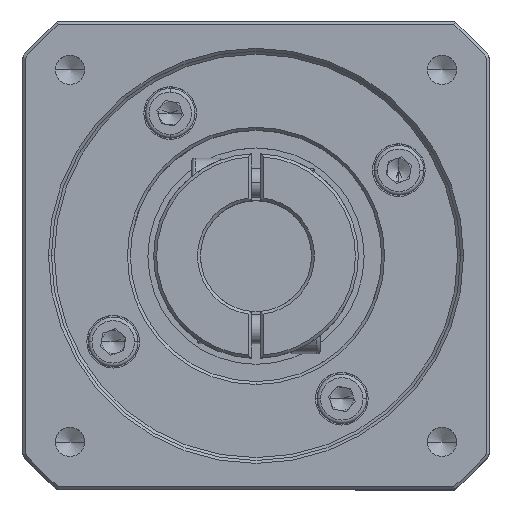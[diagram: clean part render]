
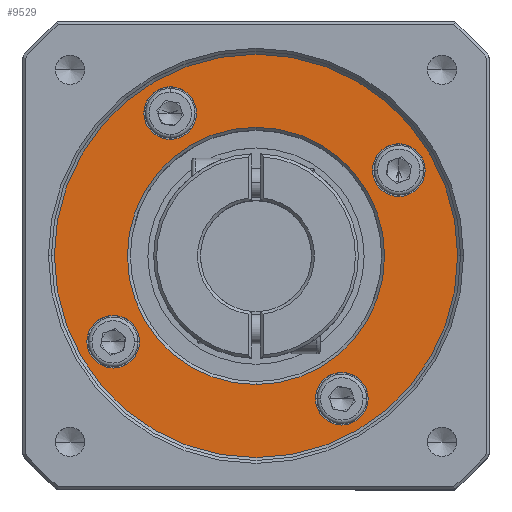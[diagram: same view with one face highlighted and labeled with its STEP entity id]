
A CAD part, top view. The second image highlights one B-rep face of the part: STEP entity #9529.
In plain terms, the highlighted planar face has unit normal (0, 0, 1).
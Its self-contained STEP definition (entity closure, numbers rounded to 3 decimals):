
#1515 = ORIENTED_EDGE ( 'NONE', *, *, #38406, .T. ) ;
#1862 = AXIS2_PLACEMENT_3D ( 'NONE', #30465, #42944, #5624 ) ;
#2057 = DIRECTION ( 'NONE',  ( 1., 0., 0. ) ) ;
#2311 = CARTESIAN_POINT ( 'NONE',  ( -25.851, -3.834, 25.374 ) ) ;
#3142 = AXIS2_PLACEMENT_3D ( 'NONE', #71570, #34309, #22309 ) ;
#3441 = ORIENTED_EDGE ( 'NONE', *, *, #7386, .T. ) ;
#3906 = CARTESIAN_POINT ( 'NONE',  ( -60.459, 5.917, 25.374 ) ) ;
#4076 = CIRCLE ( 'NONE', #16297, 4.5 ) ;
#5624 = DIRECTION ( 'NONE',  ( 1., 0., 0. ) ) ;
#6650 = AXIS2_PLACEMENT_3D ( 'NONE', #71312, #27535, #8453 ) ;
#6820 = FACE_BOUND ( 'NONE', #76155, .T. ) ;
#7386 = EDGE_CURVE ( 'NONE', #61608, #59304, #44822, .T. ) ;
#7796 = CARTESIAN_POINT ( 'NONE',  ( -16.101, 35.274, 25.374 ) ) ;
#8219 = CARTESIAN_POINT ( 'NONE',  ( -40.53, 20.596, 25.374 ) ) ;
#8453 = DIRECTION ( 'NONE',  ( 0., -1., 0. ) ) ;
#9355 = DIRECTION ( 'NONE',  ( 1., 0., 0. ) ) ;
#9529 = ADVANCED_FACE ( 'NONE', ( #6820, #12809, #77118, #60504, #30198, #58570 ), #56396, .T. ) ;
#9584 = DIRECTION ( 'NONE',  ( 0., -1., 0. ) ) ;
#10305 = DIRECTION ( 'NONE',  ( 1., 0., 0. ) ) ;
#10790 = ORIENTED_EDGE ( 'NONE', *, *, #39385, .T. ) ;
#12809 = FACE_OUTER_BOUND ( 'NONE', #61949, .T. ) ;
#13758 = AXIS2_PLACEMENT_3D ( 'NONE', #2311, #76988, #2057 ) ;
#14155 = VERTEX_POINT ( 'NONE', #69733 ) ;
#14992 = ORIENTED_EDGE ( 'NONE', *, *, #26671, .T. ) ;
#15199 = ORIENTED_EDGE ( 'NONE', *, *, #37053, .T. ) ;
#16297 = AXIS2_PLACEMENT_3D ( 'NONE', #46640, #40377, #9355 ) ;
#16334 = CIRCLE ( 'NONE', #6650, 22. ) ;
#17208 = DIRECTION ( 'NONE',  ( 1., 0., 0. ) ) ;
#18757 = EDGE_CURVE ( 'NONE', #47877, #37602, #51228, .T. ) ;
#18996 = AXIS2_PLACEMENT_3D ( 'NONE', #25112, #32700, #51740 ) ;
#19689 = VERTEX_POINT ( 'NONE', #21382 ) ;
#21382 = CARTESIAN_POINT ( 'NONE',  ( -11.601, 35.274, 25.374 ) ) ;
#22309 = DIRECTION ( 'NONE',  ( 1., 0., 0. ) ) ;
#22362 = DIRECTION ( 'NONE',  ( 0., 0., -1. ) ) ;
#23165 = DIRECTION ( 'NONE',  ( 0., 0., -1. ) ) ;
#23318 = VERTEX_POINT ( 'NONE', #65593 ) ;
#23698 = DIRECTION ( 'NONE',  ( 1., 0., 0. ) ) ;
#25112 = CARTESIAN_POINT ( 'NONE',  ( -40.53, 20.596, 25.374 ) ) ;
#26625 = DIRECTION ( 'NONE',  ( 0., 0., -1. ) ) ;
#26629 = CIRCLE ( 'NONE', #54617, 22. ) ;
#26671 = EDGE_CURVE ( 'NONE', #26674, #14155, #41826, .T. ) ;
#26674 = VERTEX_POINT ( 'NONE', #62018 ) ;
#27535 = DIRECTION ( 'NONE',  ( 0., 0., -1. ) ) ;
#27767 = EDGE_CURVE ( 'NONE', #14155, #26674, #41442, .T. ) ;
#28128 = EDGE_CURVE ( 'NONE', #59304, #61608, #39448, .T. ) ;
#29110 = EDGE_CURVE ( 'NONE', #58902, #78585, #63099, .T. ) ;
#30198 = FACE_BOUND ( 'NONE', #30478, .T. ) ;
#30465 = CARTESIAN_POINT ( 'NONE',  ( -64.959, 5.917, 25.374 ) ) ;
#30478 = EDGE_LOOP ( 'NONE', ( #78180, #54150 ) ) ;
#30770 = AXIS2_PLACEMENT_3D ( 'NONE', #36503, #23165, #17208 ) ;
#31970 = EDGE_LOOP ( 'NONE', ( #3441, #69652 ) ) ;
#32700 = DIRECTION ( 'NONE',  ( 0., 0., 1. ) ) ;
#32773 = DIRECTION ( 'NONE',  ( 1., 0., 0. ) ) ;
#33590 = CIRCLE ( 'NONE', #34998, 4.5 ) ;
#34309 = DIRECTION ( 'NONE',  ( 0., 0., -1. ) ) ;
#34998 = AXIS2_PLACEMENT_3D ( 'NONE', #7796, #70162, #47236 ) ;
#35492 = CIRCLE ( 'NONE', #70403, 4.5 ) ;
#35973 = VERTEX_POINT ( 'NONE', #62617 ) ;
#36503 = CARTESIAN_POINT ( 'NONE',  ( -25.851, -3.834, 25.374 ) ) ;
#36524 = CARTESIAN_POINT ( 'NONE',  ( -6.03, 20.596, 25.374 ) ) ;
#36575 = VERTEX_POINT ( 'NONE', #51839 ) ;
#37053 = EDGE_CURVE ( 'NONE', #36575, #35973, #16334, .T. ) ;
#37602 = VERTEX_POINT ( 'NONE', #3906 ) ;
#37964 = CIRCLE ( 'NONE', #77434, 34.5 ) ;
#38406 = EDGE_CURVE ( 'NONE', #19689, #23318, #35492, .T. ) ;
#38581 = EDGE_LOOP ( 'NONE', ( #14992, #40077 ) ) ;
#39385 = EDGE_CURVE ( 'NONE', #23318, #19689, #33590, .T. ) ;
#39448 = CIRCLE ( 'NONE', #13758, 4.5 ) ;
#40077 = ORIENTED_EDGE ( 'NONE', *, *, #27767, .T. ) ;
#40377 = DIRECTION ( 'NONE',  ( 0., 0., -1. ) ) ;
#41442 = CIRCLE ( 'NONE', #3142, 4.5 ) ;
#41826 = CIRCLE ( 'NONE', #80857, 4.5 ) ;
#42422 = CARTESIAN_POINT ( 'NONE',  ( -40.53, 20.596, 25.374 ) ) ;
#42944 = DIRECTION ( 'NONE',  ( 0., 0., -1. ) ) ;
#44822 = CIRCLE ( 'NONE', #30770, 4.5 ) ;
#45110 = CARTESIAN_POINT ( 'NONE',  ( -69.459, 5.917, 25.374 ) ) ;
#46640 = CARTESIAN_POINT ( 'NONE',  ( -64.959, 5.917, 25.374 ) ) ;
#47236 = DIRECTION ( 'NONE',  ( 1., 0., 0. ) ) ;
#47592 = DIRECTION ( 'NONE',  ( 0., 0., 1. ) ) ;
#47877 = VERTEX_POINT ( 'NONE', #45110 ) ;
#48181 = DIRECTION ( 'NONE',  ( 0., 0., 1. ) ) ;
#50959 = CARTESIAN_POINT ( 'NONE',  ( -30.351, -3.834, 25.374 ) ) ;
#51228 = CIRCLE ( 'NONE', #1862, 4.5 ) ;
#51740 = DIRECTION ( 'NONE',  ( 1., 0., 0. ) ) ;
#51839 = CARTESIAN_POINT ( 'NONE',  ( -40.53, -1.404, 25.374 ) ) ;
#52409 = CARTESIAN_POINT ( 'NONE',  ( -75.03, 20.596, 25.374 ) ) ;
#54150 = ORIENTED_EDGE ( 'NONE', *, *, #18757, .T. ) ;
#54209 = ORIENTED_EDGE ( 'NONE', *, *, #75124, .T. ) ;
#54617 = AXIS2_PLACEMENT_3D ( 'NONE', #8219, #22362, #9584 ) ;
#56396 = PLANE ( 'NONE',  #18996 ) ;
#57630 = CARTESIAN_POINT ( 'NONE',  ( -55.209, 45.025, 25.374 ) ) ;
#58570 = FACE_BOUND ( 'NONE', #38581, .T. ) ;
#58902 = VERTEX_POINT ( 'NONE', #52409 ) ;
#59304 = VERTEX_POINT ( 'NONE', #50959 ) ;
#60504 = FACE_BOUND ( 'NONE', #71916, .T. ) ;
#60831 = ORIENTED_EDGE ( 'NONE', *, *, #65797, .T. ) ;
#61608 = VERTEX_POINT ( 'NONE', #75430 ) ;
#61949 = EDGE_LOOP ( 'NONE', ( #54209, #65734 ) ) ;
#62018 = CARTESIAN_POINT ( 'NONE',  ( -50.709, 45.025, 25.374 ) ) ;
#62617 = CARTESIAN_POINT ( 'NONE',  ( -40.53, 42.596, 25.374 ) ) ;
#62843 = DIRECTION ( 'NONE',  ( 1., 0., 0. ) ) ;
#63099 = CIRCLE ( 'NONE', #71621, 34.5 ) ;
#63818 = CARTESIAN_POINT ( 'NONE',  ( -16.101, 35.274, 25.374 ) ) ;
#65593 = CARTESIAN_POINT ( 'NONE',  ( -20.601, 35.274, 25.374 ) ) ;
#65734 = ORIENTED_EDGE ( 'NONE', *, *, #29110, .T. ) ;
#65797 = EDGE_CURVE ( 'NONE', #35973, #36575, #26629, .T. ) ;
#66093 = CARTESIAN_POINT ( 'NONE',  ( -40.53, 20.596, 25.374 ) ) ;
#69652 = ORIENTED_EDGE ( 'NONE', *, *, #28128, .T. ) ;
#69733 = CARTESIAN_POINT ( 'NONE',  ( -59.709, 45.025, 25.374 ) ) ;
#70055 = DIRECTION ( 'NONE',  ( 0., 0., -1. ) ) ;
#70162 = DIRECTION ( 'NONE',  ( 0., 0., -1. ) ) ;
#70403 = AXIS2_PLACEMENT_3D ( 'NONE', #63818, #70055, #32773 ) ;
#71312 = CARTESIAN_POINT ( 'NONE',  ( -40.53, 20.596, 25.374 ) ) ;
#71570 = CARTESIAN_POINT ( 'NONE',  ( -55.209, 45.025, 25.374 ) ) ;
#71621 = AXIS2_PLACEMENT_3D ( 'NONE', #66093, #47592, #10305 ) ;
#71916 = EDGE_LOOP ( 'NONE', ( #1515, #10790 ) ) ;
#75124 = EDGE_CURVE ( 'NONE', #78585, #58902, #37964, .T. ) ;
#75430 = CARTESIAN_POINT ( 'NONE',  ( -21.351, -3.834, 25.374 ) ) ;
#76155 = EDGE_LOOP ( 'NONE', ( #15199, #60831 ) ) ;
#76988 = DIRECTION ( 'NONE',  ( 0., 0., -1. ) ) ;
#77118 = FACE_BOUND ( 'NONE', #31970, .T. ) ;
#77434 = AXIS2_PLACEMENT_3D ( 'NONE', #42422, #48181, #23698 ) ;
#78093 = EDGE_CURVE ( 'NONE', #37602, #47877, #4076, .T. ) ;
#78180 = ORIENTED_EDGE ( 'NONE', *, *, #78093, .T. ) ;
#78585 = VERTEX_POINT ( 'NONE', #36524 ) ;
#80857 = AXIS2_PLACEMENT_3D ( 'NONE', #57630, #26625, #62843 ) ;
